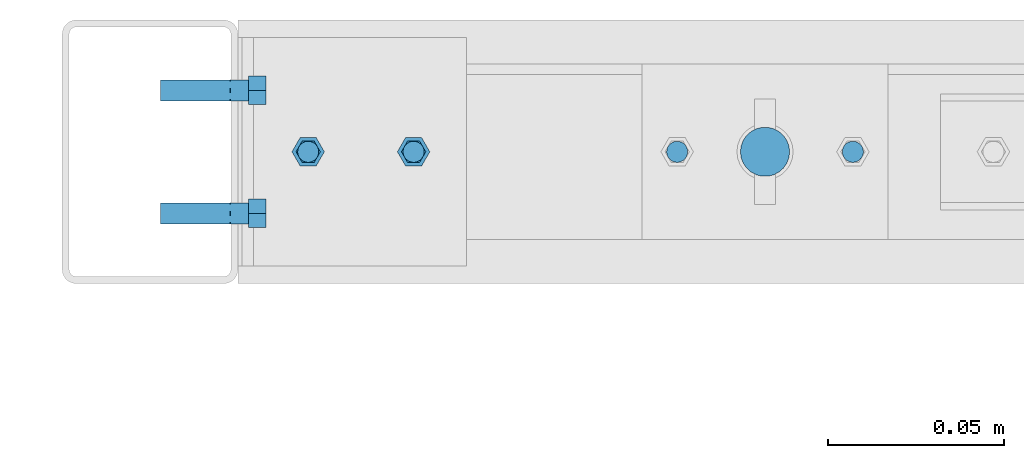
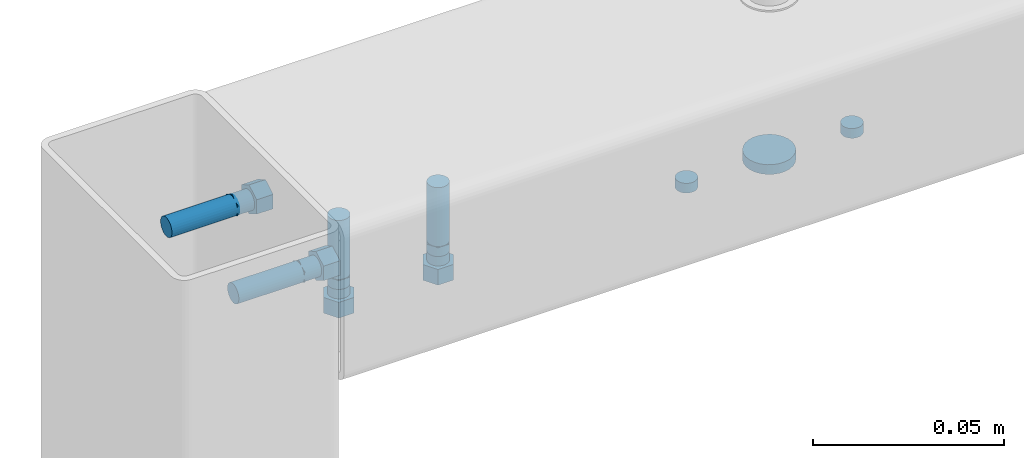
# One storey, part 73 of 91: 6 mechanical fasteners, 1 element without a shape of its own.
"""IFC2X3 building model written with IfcOpenShell, lengths in millimetres."""

from ifc_helpers import new_model, si_unit, frame, origin_with_axes, origin_2d_with_axis, place, context, subcontext, project, spatial, polyline, circle, outline, extrude, source, transform, mapped, material, type_object, element, aggregate, save


model = new_model("IFC2X3")

# Units and contexts
model_context = context("Model", 3, precision=1e-05, world=origin_with_axes())
body_context = subcontext(model_context, "Body", "Model", "MODEL_VIEW")
ifc_project = project(units=[si_unit("LENGTHUNIT", "METRE", prefix="MILLI"), si_unit("AREAUNIT", "SQUARE_METRE"), si_unit("VOLUMEUNIT", "CUBIC_METRE"), si_unit("MASSUNIT", "GRAM", prefix="KILO"), si_unit("TIMEUNIT", "SECOND"), si_unit("PLANEANGLEUNIT", "RADIAN"), si_unit("SOLIDANGLEUNIT", "STERADIAN"), si_unit("THERMODYNAMICTEMPERATUREUNIT", "DEGREE_CELSIUS"), si_unit("LUMINOUSINTENSITYUNIT", "LUMEN")], contexts=[model_context])

# Site, building, storey
site_placement = place(None, origin_with_axes())
site = spatial("IfcSite", under=ifc_project, at=site_placement, Name="Undefined", CompositionType="ELEMENT")
building_placement = place(site_placement, origin_with_axes())
building = spatial("IfcBuilding", under=site, at=building_placement, Name="Undefined", CompositionType="ELEMENT")
storey_placement = place(building_placement, origin_with_axes())
storey = spatial("IfcBuildingStorey", under=building, at=storey_placement, Name="Undefined", CompositionType="ELEMENT", Elevation=0.0)

# Assembly, mechanical fasteners
assembly_placement = place(storey_placement, origin_with_axes())
assembly = element("IfcElementAssembly", 1, at=assembly_placement, inside=storey, Name="Sliding Door Beam", AssemblyPlace="NOTDEFINED", PredefinedType="RIGID_FRAME")
ifc_material_1 = material(Name="TEK_11TPIM")
discrete_accessory_type = type_object("IfcDiscreteAccessoryType", Name="Bolt assembly")
shared_shape_1 = source(origin_with_axes(), body_context, "Body", "SweptSolid", [
    extrude(circle(Radius=3.0, at=origin_2d_with_axis()), frame((0.0, 6.10000000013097, 0.0), z_axis=(0.0, 1.0, 0.0), x_axis=(1.0, 0.0, 0.0)), (0.0, 0.0, 1.0), 3.0),
    extrude(circle(Radius=3.0, at=origin_2d_with_axis()), frame((0.0, 8.9, 0.0), z_axis=(0.0, 1.0, 0.0), x_axis=(1.0, 0.0, 0.0)), (0.0, 0.0, 1.0), 2.1),
    extrude(outline(polyline([(4.61880215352, 0.0), (2.30940107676, 4.00000000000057), (-2.30940107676, 4.00000000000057), (-4.61880215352, 0.0), (-2.30940107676, -4.00000000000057), (2.30940107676, -4.00000000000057), (4.61880215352, 0.0)])), frame((0.0, 1.00000000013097, 0.0), z_axis=(0.0, 1.0, 0.0), x_axis=(1.0, 0.0, 0.0)), (0.0, 0.0, 1.0), 5.0),
    extrude(circle(Radius=3.0, at=origin_2d_with_axis()), frame((0.0, 6.00000000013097, 0.0), z_axis=(0.0, 1.0, 0.0), x_axis=(1.0, 0.0, 0.0)), (0.0, 0.0, 1.0), 25.0),
    extrude(circle(Radius=3.0, at=origin_2d_with_axis()), frame((0.0, 11.0, 0.0), z_axis=(0.0, 1.0, 0.0), x_axis=(1.0, 0.0, 0.0)), (0.0, 0.0, 1.0), 0.1),
    extrude(outline(polyline([(3.46410161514, 0.0), (1.73205080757, 3.00000000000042), (-1.73205080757, 3.00000000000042), (-3.46410161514, 0.0), (-1.73205080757, -3.00000000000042), (1.73205080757, -3.00000000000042), (3.46410161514, 0.0)])), frame((0.0, 11.1000000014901, 0.0), z_axis=(0.0, 1.0, 0.0), x_axis=(1.0, 0.0, 0.0)), (0.0, 0.0, 1.0), 0.1),
])
mechanical_fastener_1_placement = place(assembly_placement, frame((-113579.79, 93380.0, 3351.0), z_axis=(0.0, 1.0, 0.0), x_axis=(0.0, 0.0, -1.0)))
mechanical_fastener_1 = element("IfcMechanicalFastener", 2, at=mechanical_fastener_1_placement, type_object=discrete_accessory_type, material=ifc_material_1, Name="Bolt assembly", NominalDiameter=6.0, NominalLength=25.0, context=body_context, shape_type="MappedRepresentation", body=[
    mapped(shared_shape_1, transform((0.0, 0.0, -17.5))),
    mapped(shared_shape_1, transform((0.0, 0.0, 17.5))),
])
shared_shape_2 = source(origin_with_axes(), body_context, "Body", "SweptSolid", [
    extrude(circle(Radius=3.0, at=origin_2d_with_axis()), frame((0.0, 0.1, 0.0), z_axis=(0.0, 1.0, 0.0), x_axis=(1.0, 0.0, 0.0)), (0.0, 0.0, 1.0), 2.0),
    extrude(circle(Radius=3.0, at=origin_2d_with_axis()), frame((0.0, 2.90000000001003, 0.0), z_axis=(0.0, 1.0, 0.0), x_axis=(1.0, 0.0, 0.0)), (0.0, 0.0, 1.0), 3.1),
    extrude(outline(polyline([(4.61880215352, 0.0), (2.30940107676, 4.00000000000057), (-2.30940107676, 4.00000000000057), (-4.61880215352, 0.0), (-2.30940107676, -4.00000000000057), (2.30940107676, -4.00000000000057), (4.61880215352, 0.0)])), frame((0.0, -5.0, 0.0), z_axis=(0.0, 1.0, 0.0), x_axis=(1.0, 0.0, 0.0)), (0.0, 0.0, 1.0), 5.0),
    extrude(circle(Radius=3.0, at=origin_2d_with_axis()), frame((0.0, 0.0, 0.0), z_axis=(0.0, 1.0, 0.0), x_axis=(1.0, 0.0, 0.0)), (0.0, 0.0, 1.0), 25.0),
    extrude(circle(Radius=3.0, at=origin_2d_with_axis()), frame((0.0, 6.00000000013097, 0.0), z_axis=(0.0, 1.0, 0.0), x_axis=(1.0, 0.0, 0.0)), (0.0, 0.0, 1.0), 0.1),
    extrude(outline(polyline([(3.46410161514, 0.0), (1.73205080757, 3.00000000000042), (-1.73205080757, 3.00000000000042), (-3.46410161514, 0.0), (-1.73205080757, -3.00000000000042), (1.73205080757, -3.00000000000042), (3.46410161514, 0.0)])), frame((0.0, 6.10000000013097, 0.0), z_axis=(0.0, 1.0, 0.0), x_axis=(1.0, 0.0, 0.0)), (0.0, 0.0, 1.0), 0.1),
])
mechanical_fastener_2_placement = place(assembly_placement, frame((-113568.79, 93380.0, 3326.0), z_axis=(0.0, -1.0, 0.0), x_axis=(1.0, 0.0, 0.0)))
mechanical_fastener_2 = element("IfcMechanicalFastener", 3, at=mechanical_fastener_2_placement, type_object=discrete_accessory_type, material=ifc_material_1, Name="Bolt assembly", NominalDiameter=6.0, NominalLength=25.0, context=body_context, shape_type="MappedRepresentation", body=[
    mapped(shared_shape_2, transform((0.0, 0.0, 0.0))),
    mapped(shared_shape_2, transform((30.0, 0.0, 0.0))),
])
shared_shape_3 = source(origin_with_axes(), body_context, "Body", "SweptSolid", [
    extrude(circle(Radius=3.0, at=origin_2d_with_axis()), frame((0.0, 2.00000000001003, 0.0), z_axis=(0.0, 1.0, 0.0), x_axis=(1.0, 0.0, 0.0)), (0.0, 0.0, 1.0), 3.1),
])
mechanical_fastener_3_placement = place(assembly_placement, frame((-113568.79, 93380.0, 3327.0), z_axis=(0.0, -1.0, 0.0), x_axis=(1.0, 0.0, 0.0)))
mechanical_fastener_3 = element("IfcMechanicalFastener", 4, at=mechanical_fastener_3_placement, type_object=discrete_accessory_type, material=ifc_material_1, Name="Bolt assembly", NominalDiameter=6.0, NominalLength=8.0, context=body_context, shape_type="MappedRepresentation", body=[
    mapped(shared_shape_3, transform((0.0, 0.0, 0.0))),
    mapped(shared_shape_3, transform((30.0, 0.0, 0.0))),
])
ifc_material_2 = material(Name="8.8S")
shared_shape_4 = source(origin_with_axes(), body_context, "Body", "SweptSolid", [
    extrude(circle(Radius=3.0, at=origin_2d_with_axis()), frame((0.0, -1.0, 0.0), z_axis=(0.0, 1.0, 0.0), x_axis=(1.0, 0.0, 0.0)), (0.0, 0.0, 1.0), 3.1),
])
mechanical_fastener_4_placement = place(assembly_placement, frame((-113413.79, 93380.0, 3324.0), z_axis=(0.0, 1.0, 0.0), x_axis=(-1.0, 0.0, 0.0)))
mechanical_fastener_4 = element("IfcMechanicalFastener", 5, at=mechanical_fastener_4_placement, type_object=discrete_accessory_type, material=ifc_material_2, Name="Bolt assembly", NominalDiameter=6.0, NominalLength=3.0, context=body_context, shape_type="MappedRepresentation", body=[
    mapped(shared_shape_4, transform((0.0, 0.0, 0.0))),
])
mechanical_fastener_5_placement = place(assembly_placement, frame((-113463.79, 93380.0, 3324.0), z_axis=(0.0, -1.0, 0.0), x_axis=(1.0, 0.0, 0.0)))
mechanical_fastener_5 = element("IfcMechanicalFastener", 6, at=mechanical_fastener_5_placement, type_object=discrete_accessory_type, material=ifc_material_2, Name="Bolt assembly", NominalDiameter=6.0, NominalLength=3.0, context=body_context, shape_type="MappedRepresentation", body=[
    mapped(shared_shape_4, transform((0.0, 0.0, 0.0))),
])
shared_shape_5 = source(origin_with_axes(), body_context, "Body", "SweptSolid", [
    extrude(circle(Radius=7.0, at=origin_2d_with_axis()), frame((0.0, -1.0, 0.0), z_axis=(0.0, 1.0, 0.0), x_axis=(1.0, 0.0, 0.0)), (0.0, 0.0, 1.0), 3.1),
])
mechanical_fastener_6_placement = place(assembly_placement, frame((-113438.79, 93380.0, 3324.0), z_axis=(0.0, -1.0, 0.0), x_axis=(1.0, 0.0, 0.0)))
mechanical_fastener_6 = element("IfcMechanicalFastener", 7, at=mechanical_fastener_6_placement, type_object=discrete_accessory_type, material=ifc_material_2, Name="Bolt assembly", NominalDiameter=12.0, NominalLength=3.0, context=body_context, shape_type="MappedRepresentation", body=[
    mapped(shared_shape_5, transform((0.0, 0.0, 0.0))),
])
aggregate(assembly, [mechanical_fastener_1, mechanical_fastener_3, mechanical_fastener_2, mechanical_fastener_4, mechanical_fastener_5, mechanical_fastener_6])

save(model, "model.ifc")
